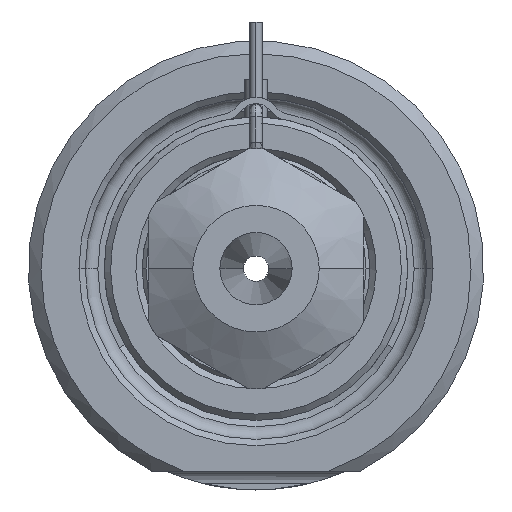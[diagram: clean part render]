
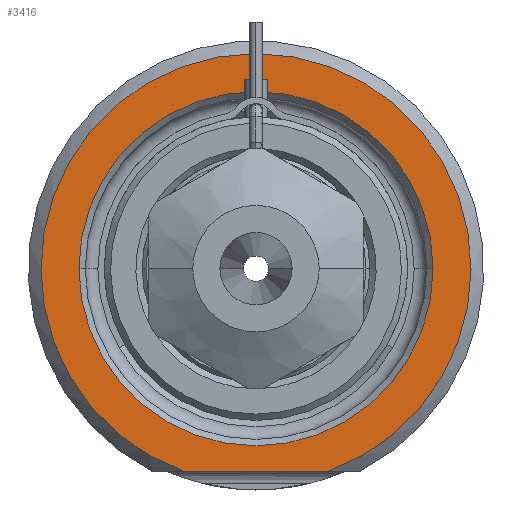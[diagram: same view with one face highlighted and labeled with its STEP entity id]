
A CAD part, front view. The second image highlights one B-rep face of the part: STEP entity #3416.
In plain terms, the highlighted planar face has unit normal (0, -1, 0).
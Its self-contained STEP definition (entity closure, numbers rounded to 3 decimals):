
#702=DIRECTION('',(1.,0.,0.));
#703=VECTOR('',#702,11.489);
#704=CARTESIAN_POINT('',(-5.745,0.,-16.));
#705=LINE('',#704,#703);
#706=CARTESIAN_POINT('',(0.,0.,0.));
#707=DIRECTION('',(0.,1.,0.));
#708=DIRECTION('',(-1.,0.,0.));
#709=AXIS2_PLACEMENT_3D('',#706,#707,#708);
#711=CARTESIAN_POINT('',(0.,0.,0.));
#712=DIRECTION('',(0.,1.,0.));
#713=DIRECTION('',(1.,0.,0.));
#714=AXIS2_PLACEMENT_3D('',#711,#712,#713);
#818=CARTESIAN_POINT('',(0.,0.,0.));
#819=DIRECTION('',(0.,-1.,0.));
#820=DIRECTION('',(0.338,0.,-0.941));
#821=AXIS2_PLACEMENT_3D('',#818,#819,#820);
#2206=CARTESIAN_POINT('',(-14.,0.,0.));
#2207=CARTESIAN_POINT('',(14.,0.,0.));
#2208=VERTEX_POINT('',#2206);
#2209=VERTEX_POINT('',#2207);
#2246=CARTESIAN_POINT('',(-5.745,0.,-16.));
#2247=CARTESIAN_POINT('',(5.745,0.,-16.));
#2248=VERTEX_POINT('',#2246);
#2249=VERTEX_POINT('',#2247);
#3400=CARTESIAN_POINT('',(0.,0.,0.));
#3401=DIRECTION('',(0.,-1.,0.));
#3402=DIRECTION('',(1.,0.,0.));
#3403=AXIS2_PLACEMENT_3D('',#3400,#3401,#3402);
#3404=PLANE('',#3403);
#3406=ORIENTED_EDGE('',*,*,#3405,.F.);
#3408=ORIENTED_EDGE('',*,*,#3407,.F.);
#3409=EDGE_LOOP('',(#3406,#3408));
#3410=FACE_OUTER_BOUND('',#3409,.F.);
#3412=ORIENTED_EDGE('',*,*,#3411,.F.);
#3413=ORIENTED_EDGE('',*,*,#3390,.F.);
#3414=EDGE_LOOP('',(#3412,#3413));
#3415=FACE_BOUND('',#3414,.F.);
#3416=ADVANCED_FACE('',(#3410,#3415),#3404,.T.);
#710=CIRCLE('',#709,14.);
#715=CIRCLE('',#714,14.);
#822=CIRCLE('',#821,17.);
#3390=EDGE_CURVE('',#2209,#2208,#715,.T.);
#3405=EDGE_CURVE('',#2248,#2249,#705,.T.);
#3407=EDGE_CURVE('',#2249,#2248,#822,.T.);
#3411=EDGE_CURVE('',#2208,#2209,#710,.T.);
